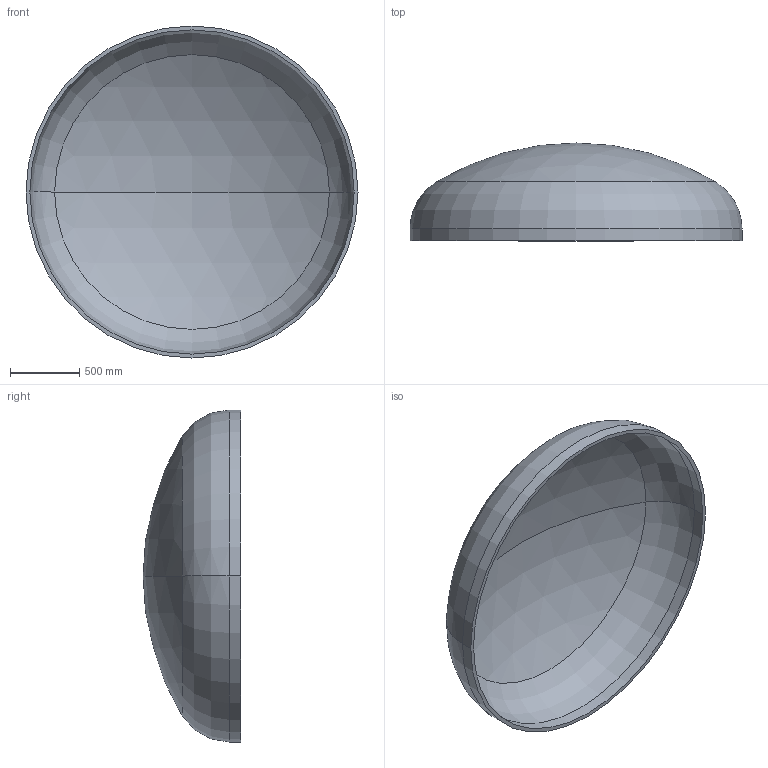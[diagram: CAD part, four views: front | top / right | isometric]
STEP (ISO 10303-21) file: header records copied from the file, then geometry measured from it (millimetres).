
FILE_DESCRIPTION (( 'STEP AP203' ), '1' );
FILE_NAME ('DIN 28013 Korbbogenform_-_Boden DIN 28013 - 2400 x 85 - I - s=28.step', '2016-07-01T15:14:13', ( '' ), ( '' ), 'SwSTEP 2.0', 'SolidWorks 2013', '' );
FILE_SCHEMA (( 'CONFIG_CONTROL_DESIGN' ));
Length unit declared in the file: millimetre
Products named in the file (1): DIN 28013 Korbbogenform_-_Boden DIN 28013 - 2400 x 85 - I - s=28
Bounding box: 2400 x 706.62 x 2400 mm (x, y, z)
Volume: 190521357 mm3; surface area: 13818957.5 mm2
Topology: 1 solids, 1 shells, 13 faces, 24 edges, 14 vertices
Faces by surface type: torus 4, cylinder 4, sphere 4, plane 1
Entity records: 407 total; most frequent: DIRECTION 72, CARTESIAN_POINT 52, ORIENTED_EDGE 48, AXIS2_PLACEMENT_3D 34, EDGE_CURVE 24, CIRCLE 20, VERTEX_POINT 14, EDGE_LOOP 14
